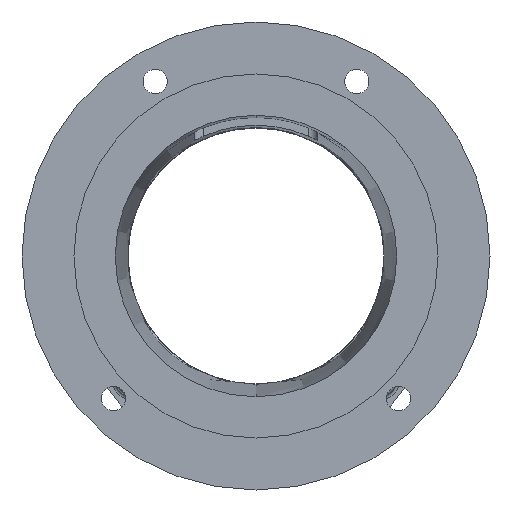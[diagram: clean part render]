
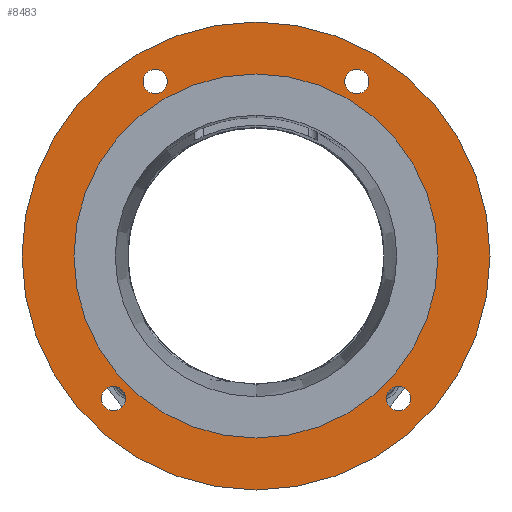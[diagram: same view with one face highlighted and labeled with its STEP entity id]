
A CAD part, front view. The second image highlights one B-rep face of the part: STEP entity #8483.
In plain terms, the highlighted planar face has unit normal (0, -1, 0).
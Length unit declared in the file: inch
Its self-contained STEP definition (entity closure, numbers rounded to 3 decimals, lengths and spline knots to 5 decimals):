
#14 = CARTESIAN_POINT ( 'NONE',  ( 2.74004, 0., -2.50566 ) ) ;
#53 = EDGE_CURVE ( 'NONE', #5616, #8752, #5589, .T. ) ;
#103 = DIRECTION ( 'NONE',  ( 0., -1., 0. ) ) ;
#117 = DIRECTION ( 'NONE',  ( 0., 0., -1. ) ) ;
#155 = VERTEX_POINT ( 'NONE', #3318 ) ;
#158 = DIRECTION ( 'NONE',  ( 0., -1., 0. ) ) ;
#159 = FACE_BOUND ( 'NONE', #6166, .T. ) ;
#292 = DIRECTION ( 'NONE',  ( 0., 0., -1. ) ) ;
#299 = CIRCLE ( 'NONE', #349, 4.5 ) ;
#301 = DIRECTION ( 'NONE',  ( 0., -1., 0. ) ) ;
#328 = CARTESIAN_POINT ( 'NONE',  ( 0., 0., 0. ) ) ;
#349 = AXIS2_PLACEMENT_3D ( 'NONE', #328, #301, #292 ) ;
#437 = CARTESIAN_POINT ( 'NONE',  ( 1.9375, 0., 3.35585 ) ) ;
#780 = DIRECTION ( 'NONE',  ( 0., -1., 0. ) ) ;
#875 = PLANE ( 'NONE',  #8643 ) ;
#1025 = EDGE_CURVE ( 'NONE', #2037, #7971, #299, .T. ) ;
#1067 = AXIS2_PLACEMENT_3D ( 'NONE', #1414, #1401, #1396 ) ;
#1176 = AXIS2_PLACEMENT_3D ( 'NONE', #6980, #103, #8049 ) ;
#1191 = EDGE_CURVE ( 'NONE', #5713, #155, #5180, .T. ) ;
#1210 = VERTEX_POINT ( 'NONE', #1278 ) ;
#1278 = CARTESIAN_POINT ( 'NONE',  ( -1.9375, 0., 3.59022 ) ) ;
#1346 = CARTESIAN_POINT ( 'NONE',  ( 0., 0., 0. ) ) ;
#1396 = DIRECTION ( 'NONE',  ( 0., 0., -1. ) ) ;
#1401 = DIRECTION ( 'NONE',  ( 0., -1., 0. ) ) ;
#1414 = CARTESIAN_POINT ( 'NONE',  ( -2.74004, 0., -2.74004 ) ) ;
#1432 = DIRECTION ( 'NONE',  ( 0., 0., -1. ) ) ;
#1439 = DIRECTION ( 'NONE',  ( 0., -1., 0. ) ) ;
#1447 = CARTESIAN_POINT ( 'NONE',  ( 1.9375, 0., 3.35585 ) ) ;
#1659 = CARTESIAN_POINT ( 'NONE',  ( -1.9375, 0., 3.12147 ) ) ;
#1746 = EDGE_LOOP ( 'NONE', ( #5277, #5243 ) ) ;
#1779 = CIRCLE ( 'NONE', #6313, 3.501 ) ;
#1908 = FACE_BOUND ( 'NONE', #5941, .T. ) ;
#1931 = ORIENTED_EDGE ( 'NONE', *, *, #53, .F. ) ;
#2037 = VERTEX_POINT ( 'NONE', #9276 ) ;
#2087 = DIRECTION ( 'NONE',  ( 0., 0., -1. ) ) ;
#2141 = FACE_BOUND ( 'NONE', #2921, .T. ) ;
#2362 = ORIENTED_EDGE ( 'NONE', *, *, #4458, .F. ) ;
#2363 = EDGE_CURVE ( 'NONE', #6936, #1210, #2830, .T. ) ;
#2549 = CARTESIAN_POINT ( 'NONE',  ( 0., 0., -3.501 ) ) ;
#2605 = CIRCLE ( 'NONE', #5248, 4.5 ) ;
#2610 = EDGE_CURVE ( 'NONE', #4285, #8084, #8869, .T. ) ;
#2700 = CARTESIAN_POINT ( 'NONE',  ( 1.9375, 0., 3.59022 ) ) ;
#2813 = AXIS2_PLACEMENT_3D ( 'NONE', #8947, #6429, #6799 ) ;
#2830 = CIRCLE ( 'NONE', #2813, 0.23438 ) ;
#2921 = EDGE_LOOP ( 'NONE', ( #1931, #9362 ) ) ;
#3081 = CARTESIAN_POINT ( 'NONE',  ( -4.5, 0., 0. ) ) ;
#3302 = CARTESIAN_POINT ( 'NONE',  ( -2.74004, 0., -2.97441 ) ) ;
#3318 = CARTESIAN_POINT ( 'NONE',  ( 1.9375, 0., 3.12147 ) ) ;
#3603 = ORIENTED_EDGE ( 'NONE', *, *, #2363, .F. ) ;
#3800 = DIRECTION ( 'NONE',  ( 0., 0., 1. ) ) ;
#4047 = CARTESIAN_POINT ( 'NONE',  ( 2.74004, 0., -2.97441 ) ) ;
#4076 = CIRCLE ( 'NONE', #8109, 0.23438 ) ;
#4117 = EDGE_CURVE ( 'NONE', #8752, #5616, #6084, .T. ) ;
#4285 = VERTEX_POINT ( 'NONE', #14 ) ;
#4319 = ORIENTED_EDGE ( 'NONE', *, *, #5117, .F. ) ;
#4402 = VERTEX_POINT ( 'NONE', #7350 ) ;
#4458 = EDGE_CURVE ( 'NONE', #8084, #4285, #4076, .T. ) ;
#4621 = ORIENTED_EDGE ( 'NONE', *, *, #1191, .F. ) ;
#4642 = CARTESIAN_POINT ( 'NONE',  ( 0., 0., -4.5 ) ) ;
#4648 = AXIS2_PLACEMENT_3D ( 'NONE', #1447, #1439, #1432 ) ;
#4728 = DIRECTION ( 'NONE',  ( 0., 0., -1. ) ) ;
#4766 = DIRECTION ( 'NONE',  ( 0., -1., 0. ) ) ;
#5115 = CARTESIAN_POINT ( 'NONE',  ( 0., 0., 0. ) ) ;
#5117 = EDGE_CURVE ( 'NONE', #1210, #6936, #7613, .T. ) ;
#5120 = EDGE_CURVE ( 'NONE', #6511, #4402, #5720, .T. ) ;
#5180 = CIRCLE ( 'NONE', #5680, 0.23438 ) ;
#5243 = ORIENTED_EDGE ( 'NONE', *, *, #1025, .T. ) ;
#5248 = AXIS2_PLACEMENT_3D ( 'NONE', #5115, #780, #5809 ) ;
#5277 = ORIENTED_EDGE ( 'NONE', *, *, #8373, .T. ) ;
#5407 = ORIENTED_EDGE ( 'NONE', *, *, #5885, .F. ) ;
#5589 = CIRCLE ( 'NONE', #6398, 0.23438 ) ;
#5616 = VERTEX_POINT ( 'NONE', #3302 ) ;
#5641 = AXIS2_PLACEMENT_3D ( 'NONE', #5738, #5715, #5699 ) ;
#5678 = CARTESIAN_POINT ( 'NONE',  ( 0., 0., 0. ) ) ;
#5680 = AXIS2_PLACEMENT_3D ( 'NONE', #437, #158, #117 ) ;
#5699 = DIRECTION ( 'NONE',  ( 0., 0., -1. ) ) ;
#5713 = VERTEX_POINT ( 'NONE', #2700 ) ;
#5715 = DIRECTION ( 'NONE',  ( 0., -1., 0. ) ) ;
#5720 = CIRCLE ( 'NONE', #6595, 3.501 ) ;
#5738 = CARTESIAN_POINT ( 'NONE',  ( -1.9375, 0., 3.35585 ) ) ;
#5744 = ORIENTED_EDGE ( 'NONE', *, *, #2610, .F. ) ;
#5809 = DIRECTION ( 'NONE',  ( 0., 0., -1. ) ) ;
#5830 = EDGE_LOOP ( 'NONE', ( #6394, #8111 ) ) ;
#5885 = EDGE_CURVE ( 'NONE', #155, #5713, #7720, .T. ) ;
#5921 = CARTESIAN_POINT ( 'NONE',  ( 2.74004, 0., -2.74004 ) ) ;
#5941 = EDGE_LOOP ( 'NONE', ( #2362, #5744 ) ) ;
#5985 = DIRECTION ( 'NONE',  ( 0., -1., 0. ) ) ;
#6029 = DIRECTION ( 'NONE',  ( 0., 0., -1. ) ) ;
#6084 = CIRCLE ( 'NONE', #1067, 0.23438 ) ;
#6166 = EDGE_LOOP ( 'NONE', ( #5407, #4621 ) ) ;
#6313 = AXIS2_PLACEMENT_3D ( 'NONE', #1346, #6361, #2087 ) ;
#6361 = DIRECTION ( 'NONE',  ( 0., -1., 0. ) ) ;
#6394 = ORIENTED_EDGE ( 'NONE', *, *, #5120, .F. ) ;
#6398 = AXIS2_PLACEMENT_3D ( 'NONE', #7435, #7396, #7354 ) ;
#6429 = DIRECTION ( 'NONE',  ( 0., -1., 0. ) ) ;
#6511 = VERTEX_POINT ( 'NONE', #2549 ) ;
#6595 = AXIS2_PLACEMENT_3D ( 'NONE', #5678, #5985, #6029 ) ;
#6746 = EDGE_CURVE ( 'NONE', #4402, #6511, #1779, .T. ) ;
#6799 = DIRECTION ( 'NONE',  ( 0., 0., -1. ) ) ;
#6936 = VERTEX_POINT ( 'NONE', #1659 ) ;
#6980 = CARTESIAN_POINT ( 'NONE',  ( 2.74004, 0., -2.74004 ) ) ;
#7174 = CARTESIAN_POINT ( 'NONE',  ( -2.74004, 0., -2.50566 ) ) ;
#7350 = CARTESIAN_POINT ( 'NONE',  ( 0., 0., 3.501 ) ) ;
#7354 = DIRECTION ( 'NONE',  ( 0., 0., -1. ) ) ;
#7381 = FACE_OUTER_BOUND ( 'NONE', #1746, .T. ) ;
#7396 = DIRECTION ( 'NONE',  ( 0., -1., 0. ) ) ;
#7435 = CARTESIAN_POINT ( 'NONE',  ( -2.74004, 0., -2.74004 ) ) ;
#7609 = FACE_BOUND ( 'NONE', #9077, .T. ) ;
#7613 = CIRCLE ( 'NONE', #5641, 0.23438 ) ;
#7720 = CIRCLE ( 'NONE', #4648, 0.23438 ) ;
#7971 = VERTEX_POINT ( 'NONE', #4642 ) ;
#8049 = DIRECTION ( 'NONE',  ( 0., 0., -1. ) ) ;
#8083 = DIRECTION ( 'NONE',  ( 0., 1., 0. ) ) ;
#8084 = VERTEX_POINT ( 'NONE', #4047 ) ;
#8109 = AXIS2_PLACEMENT_3D ( 'NONE', #5921, #4766, #4728 ) ;
#8111 = ORIENTED_EDGE ( 'NONE', *, *, #6746, .F. ) ;
#8373 = EDGE_CURVE ( 'NONE', #7971, #2037, #2605, .T. ) ;
#8483 = ADVANCED_FACE ( 'NONE', ( #7609, #159, #1908, #2141, #9306, #7381 ), #875, .F. ) ;
#8643 = AXIS2_PLACEMENT_3D ( 'NONE', #3081, #8083, #3800 ) ;
#8752 = VERTEX_POINT ( 'NONE', #7174 ) ;
#8869 = CIRCLE ( 'NONE', #1176, 0.23438 ) ;
#8947 = CARTESIAN_POINT ( 'NONE',  ( -1.9375, 0., 3.35585 ) ) ;
#9077 = EDGE_LOOP ( 'NONE', ( #3603, #4319 ) ) ;
#9276 = CARTESIAN_POINT ( 'NONE',  ( 0., 0., 4.5 ) ) ;
#9306 = FACE_BOUND ( 'NONE', #5830, .T. ) ;
#9362 = ORIENTED_EDGE ( 'NONE', *, *, #4117, .F. ) ;
